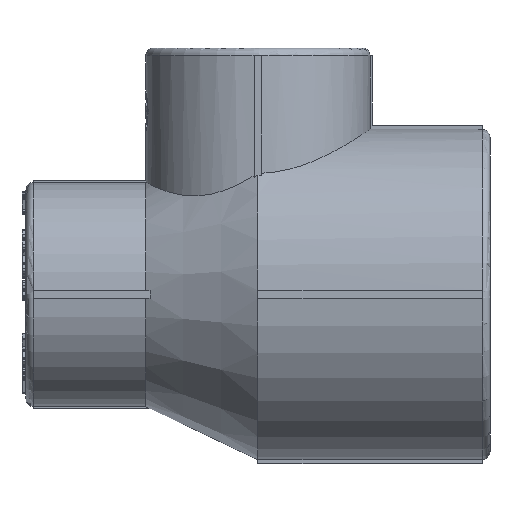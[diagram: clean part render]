
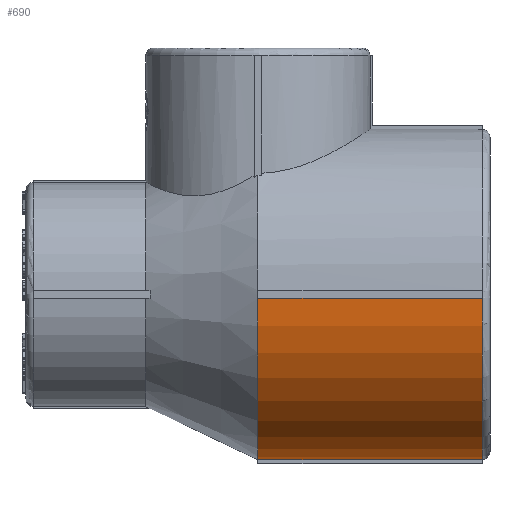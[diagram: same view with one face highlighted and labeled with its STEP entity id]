
A CAD part, left-side view. The second image highlights one B-rep face of the part: STEP entity #690.
In plain terms, the highlighted cylindrical face has radius 21.35 mm (diameter 42.7 mm), a partial arc.
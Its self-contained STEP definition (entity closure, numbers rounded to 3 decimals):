
#690=ADVANCED_FACE('',(#5358),#5360,.T.);
#5358=FACE_BOUND('',#5359,.T.);
#5359=EDGE_LOOP('',(#13421,#13422,#13423,#13424));
#5360=CYLINDRICAL_SURFACE('',#5361,21.35);
#5361=AXIS2_PLACEMENT_3D('',#5362,#5363,#5364);
#5362=CARTESIAN_POINT('',(0.,0.,0.));
#5363=DIRECTION('',(0.,-1.,0.));
#5364=DIRECTION('',(1.,0.,0.));
#13421=ORIENTED_EDGE('',*,*,#18922,.F.);
#13422=ORIENTED_EDGE('',*,*,#18923,.F.);
#13423=ORIENTED_EDGE('',*,*,#18924,.F.);
#13424=ORIENTED_EDGE('',*,*,#18886,.F.);
#18886=EDGE_CURVE('',#23275,#23277,#23278,.F.);
#18922=EDGE_CURVE('',#23336,#23275,#23337,.F.);
#18923=EDGE_CURVE('',#23338,#23336,#23339,.T.);
#18924=EDGE_CURVE('',#23277,#23338,#23340,.T.);
#23275=VERTEX_POINT('',#32323);
#23277=VERTEX_POINT('',#32328);
#23278=CIRCLE('',#32329,21.35);
#23336=VERTEX_POINT('',#32670);
#23337=LINE('',#32671,#32672);
#23338=VERTEX_POINT('',#32674);
#23339=CIRCLE('',#32675,21.35);
#23340=LINE('',#32679,#32680);
#32323=CARTESIAN_POINT('',(-0.5,0.,-21.344));
#32328=CARTESIAN_POINT('',(-21.344,0.,-0.5));
#32329=AXIS2_PLACEMENT_3D('',#32330,#32331,#32332);
#32330=CARTESIAN_POINT('',(0.,0.,0.));
#32331=DIRECTION('',(0.,-1.,0.));
#32332=DIRECTION('',(-1.,0.,-0.023));
#32670=CARTESIAN_POINT('',(-0.5,-29.,-21.344));
#32671=CARTESIAN_POINT('',(-0.5,0.,-21.344));
#32672=VECTOR('',#32673,1.);
#32673=DIRECTION('',(0.,-1.,0.));
#32674=CARTESIAN_POINT('',(-21.344,-29.,-0.5));
#32675=AXIS2_PLACEMENT_3D('',#32676,#32677,#32678);
#32676=CARTESIAN_POINT('',(0.,-29.,0.));
#32677=DIRECTION('',(0.,-1.,0.));
#32678=DIRECTION('',(-1.,0.,-0.023));
#32679=CARTESIAN_POINT('',(-21.344,0.,-0.5));
#32680=VECTOR('',#32681,1.);
#32681=DIRECTION('',(0.,-1.,0.));
